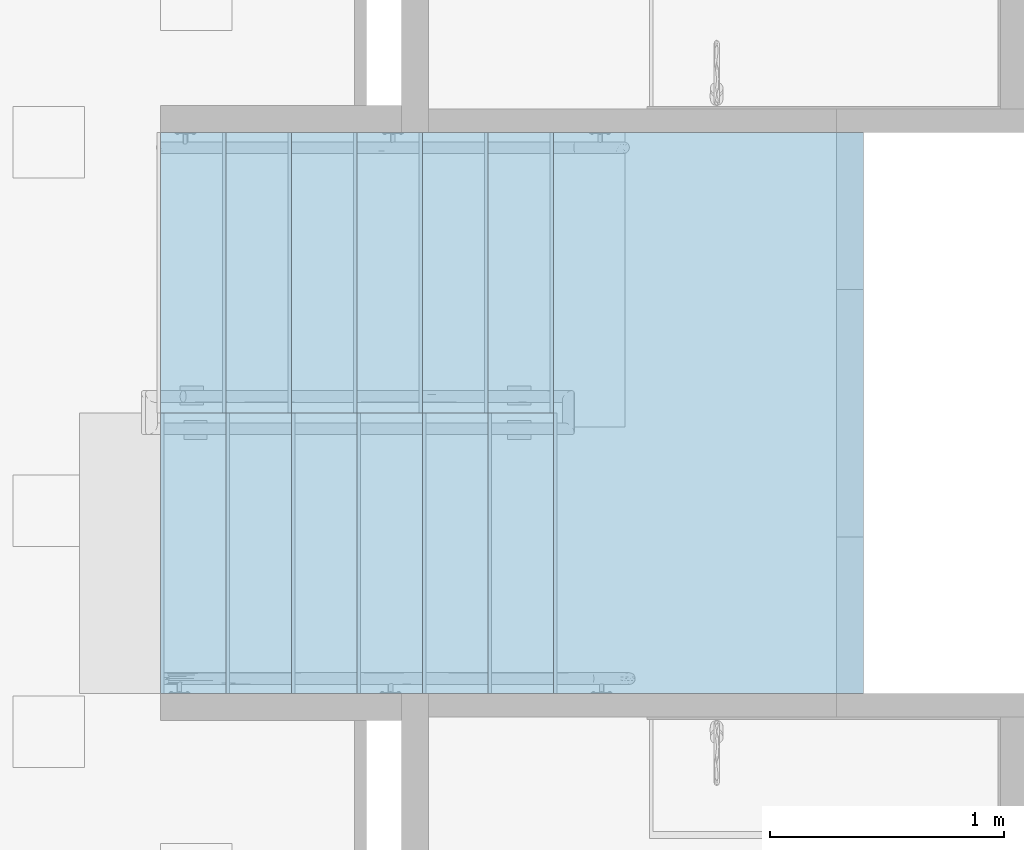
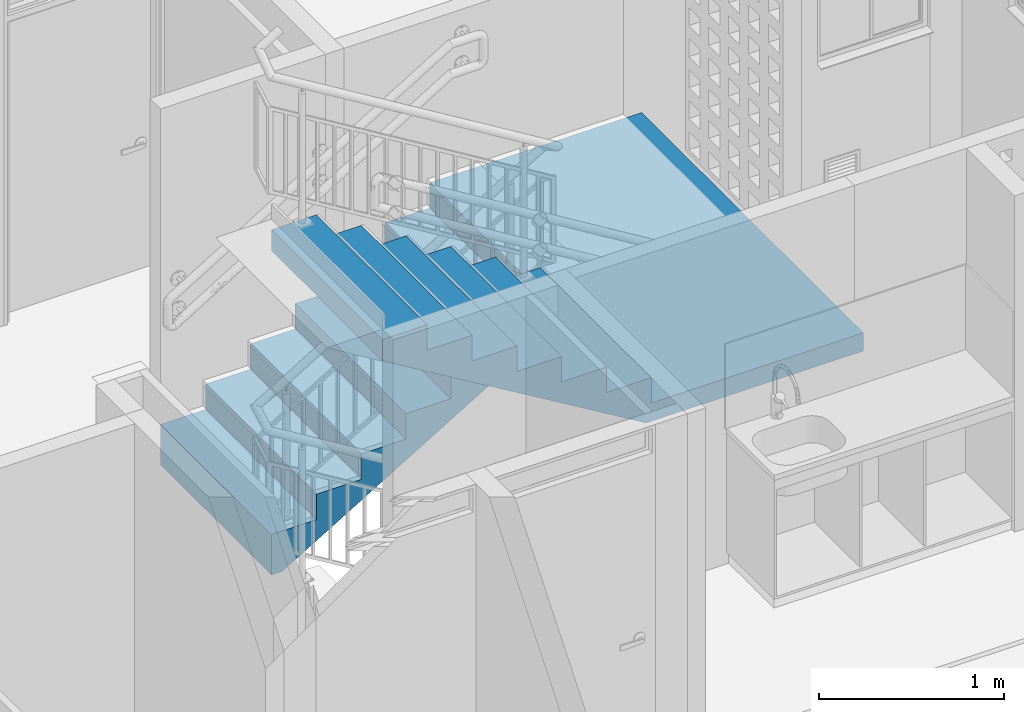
# One storey, part 35 of 51: 1 stair.
"""IFC4 building model written with IfcOpenShell, lengths in metres."""

from ifc_helpers import new_model, entity, si_unit, converted_unit, derived_unit, direction, frame, origin, place, context, subcontext, project, spatial, polygons, material, type_object, element, save


model = new_model("IFC4")

# Units and contexts
model_context = context("Model", 3, precision=1e-05, world=origin(), true_north=direction((6.123031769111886e-17, 1.0)))
body_context = subcontext(model_context, "Body", "Model", "MODEL_VIEW")
ifc_project = project(units=[si_unit("LENGTHUNIT", "METRE"), si_unit("AREAUNIT", "SQUARE_METRE"), si_unit("VOLUMEUNIT", "CUBIC_METRE"), converted_unit("PLANEANGLEUNIT", "DEGREE", entity("IfcRatioMeasure", 0.017453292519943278), si_unit("PLANEANGLEUNIT", "RADIAN"), dimensions=[0, 0, 0, 0, 0, 0, 0]), si_unit("MASSUNIT", "GRAM", prefix="KILO"), derived_unit("MASSDENSITYUNIT", [(si_unit("MASSUNIT", "GRAM", prefix="KILO"), 1), (si_unit("LENGTHUNIT", "METRE"), -3)]), derived_unit("IONCONCENTRATIONUNIT", [(si_unit("MASSUNIT", "GRAM", prefix="KILO"), 1), (si_unit("LENGTHUNIT", "METRE"), -3)]), derived_unit("MOMENTOFINERTIAUNIT", [(si_unit("LENGTHUNIT", "METRE"), 4)]), si_unit("TIMEUNIT", "SECOND"), si_unit("FREQUENCYUNIT", "HERTZ"), si_unit("THERMODYNAMICTEMPERATUREUNIT", "DEGREE_CELSIUS"), derived_unit("THERMALTRANSMITTANCEUNIT", [(si_unit("MASSUNIT", "GRAM", prefix="KILO"), 1), (si_unit("THERMODYNAMICTEMPERATUREUNIT", "KELVIN"), -1), (si_unit("TIMEUNIT", "SECOND"), -3)]), derived_unit("THERMALCONDUCTANCEUNIT", [(si_unit("MASSUNIT", "GRAM", prefix="KILO"), 1), (si_unit("THERMODYNAMICTEMPERATUREUNIT", "KELVIN"), -1), (si_unit("TIMEUNIT", "SECOND"), -3), (si_unit("LENGTHUNIT", "METRE"), 1)]), derived_unit("VOLUMETRICFLOWRATEUNIT", [(si_unit("LENGTHUNIT", "METRE"), 3), (si_unit("TIMEUNIT", "SECOND"), -1)]), derived_unit("MASSFLOWRATEUNIT", [(si_unit("MASSUNIT", "GRAM", prefix="KILO"), 1), (si_unit("TIMEUNIT", "SECOND"), -1)]), derived_unit("ROTATIONALFREQUENCYUNIT", [(si_unit("TIMEUNIT", "SECOND"), -1)]), si_unit("ELECTRICCURRENTUNIT", "AMPERE"), si_unit("ELECTRICVOLTAGEUNIT", "VOLT"), si_unit("POWERUNIT", "WATT"), si_unit("FORCEUNIT", "NEWTON", prefix="KILO"), si_unit("ILLUMINANCEUNIT", "LUX"), si_unit("LUMINOUSFLUXUNIT", "LUMEN"), si_unit("LUMINOUSINTENSITYUNIT", "CANDELA"), derived_unit("USERDEFINED", [(si_unit("MASSUNIT", "GRAM", prefix="KILO"), -1), (si_unit("LENGTHUNIT", "METRE"), -2), (si_unit("TIMEUNIT", "SECOND"), 3), (si_unit("LUMINOUSFLUXUNIT", "LUMEN"), 1)]), derived_unit("USERDEFINED", [(si_unit("MASSUNIT", "GRAM", prefix="KILO"), 1), (si_unit("TIMEUNIT", "SECOND"), -3), (si_unit("LENGTHUNIT", "METRE"), 3), (si_unit("ELECTRICCURRENTUNIT", "AMPERE"), -2)]), derived_unit("SOUNDPOWERUNIT", [(si_unit("MASSUNIT", "GRAM", prefix="KILO"), 1), (si_unit("TIMEUNIT", "SECOND"), -3), (si_unit("LENGTHUNIT", "METRE"), 2)]), derived_unit("SOUNDPRESSUREUNIT", [(si_unit("MASSUNIT", "GRAM", prefix="KILO"), 1), (si_unit("LENGTHUNIT", "METRE"), -1), (si_unit("TIMEUNIT", "SECOND"), -2)]), derived_unit("LINEARVELOCITYUNIT", [(si_unit("LENGTHUNIT", "METRE"), 1), (si_unit("TIMEUNIT", "SECOND"), -1)]), si_unit("PRESSUREUNIT", "PASCAL"), derived_unit("USERDEFINED", [(si_unit("MASSUNIT", "GRAM", prefix="KILO"), 1), (si_unit("LENGTHUNIT", "METRE"), -2), (si_unit("TIMEUNIT", "SECOND"), -2)]), derived_unit("LINEARFORCEUNIT", [(si_unit("MASSUNIT", "GRAM", prefix="KILO"), 1), (si_unit("TIMEUNIT", "SECOND"), -2)]), derived_unit("PLANARFORCEUNIT", [(si_unit("MASSUNIT", "GRAM", prefix="KILO"), 1), (si_unit("LENGTHUNIT", "METRE"), -1), (si_unit("TIMEUNIT", "SECOND"), -2)]), derived_unit("SPECIFICHEATCAPACITYUNIT", [(si_unit("THERMODYNAMICTEMPERATUREUNIT", "KELVIN"), -1), (si_unit("LENGTHUNIT", "METRE"), 2), (si_unit("TIMEUNIT", "SECOND"), -2)]), derived_unit("HEATINGVALUEUNIT", [(si_unit("LENGTHUNIT", "METRE"), 2), (si_unit("TIMEUNIT", "SECOND"), -2)]), derived_unit("VAPORPERMEABILITYUNIT", [(si_unit("LENGTHUNIT", "METRE"), -1), (si_unit("TIMEUNIT", "SECOND"), 1)]), derived_unit("DYNAMICVISCOSITYUNIT", [(si_unit("MASSUNIT", "GRAM", prefix="KILO"), 1), (si_unit("TIMEUNIT", "SECOND"), -1), (si_unit("LENGTHUNIT", "METRE"), -1)]), derived_unit("THERMALEXPANSIONCOEFFICIENTUNIT", [(si_unit("THERMODYNAMICTEMPERATUREUNIT", "KELVIN"), -1)]), derived_unit("MODULUSOFELASTICITYUNIT", [(si_unit("MASSUNIT", "GRAM", prefix="KILO"), 1), (si_unit("LENGTHUNIT", "METRE"), -1), (si_unit("TIMEUNIT", "SECOND"), -2)]), derived_unit("ISOTHERMALMOISTURECAPACITYUNIT", [(si_unit("LENGTHUNIT", "METRE"), 3), (si_unit("MASSUNIT", "GRAM", prefix="KILO"), -1)]), derived_unit("MOISTUREDIFFUSIVITYUNIT", [(si_unit("TIMEUNIT", "SECOND"), -1), (si_unit("LENGTHUNIT", "METRE"), 2)])], contexts=[model_context])

# Site, building, storey
site_placement = place(None, origin())
site = spatial("IfcSite", under=ifc_project, at=site_placement, Name="Default", CompositionType="ELEMENT")
building_placement = place(site_placement, origin())
building = spatial("IfcBuilding", under=site, at=building_placement, CompositionType="ELEMENT")
storey_placement = place(building_placement, frame((0.0, 0.0, 2.350000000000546)))
storey = spatial("IfcBuildingStorey", under=building, at=storey_placement, Name="Nivel 2", CompositionType="ELEMENT", Elevation=2.350000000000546)

# Stair
ifc_material = material(Name="Concreto (Aire)", Category="Materials")
stair_type = type_object("IfcStairType", Name="Stair:B1080 - 2.40 x 2.88 - Escalera en concreto de dos tramos piso tipo", PredefinedType="NOTDEFINED")
stair_placement = place(storey_placement, frame((9.55250000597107, -7.625000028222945, -0.10000000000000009)))
element("IfcStair", 1, at=stair_placement, inside=storey, type_object=stair_type, material=ifc_material, Name="Stair:B1080 - 2.40 x 2.88 - Escalera en concreto de dos tramos piso tipo", ObjectType="Stair:B1080 - 2.40 x 2.88 - Escalera en concreto de dos tramos piso tipo", PredefinedType="NOTDEFINED", context=body_context, shape_type="Tessellation", body=[
    polygons([(0.2800000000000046, 2.4000000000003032, 0.2678571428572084), (4.331468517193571e-15, 2.4000000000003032, 0.2678571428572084), (4.331468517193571e-15, 1.2000000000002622, 0.2678571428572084), (0.28000000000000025, 1.200000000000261, 0.2678571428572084), (0.28000000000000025, 2.4000000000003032, 0.4357142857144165), (0.5600000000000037, 2.4000000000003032, 0.4357142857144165), (0.5600000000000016, 2.4000000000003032, 0.6035714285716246), (0.8400000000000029, 2.4000000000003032, 0.6035714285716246), (0.8400000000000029, 2.4000000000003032, 0.7714285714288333), (1.120000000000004, 2.4000000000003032, 0.7714285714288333), (1.1199999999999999, 2.4000000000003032, 0.9392857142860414), (1.4000000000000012, 2.4000000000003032, 0.9392857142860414), (1.399999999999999, 2.4000000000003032, 1.107142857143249), (1.6800000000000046, 2.4000000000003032, 1.107142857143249), (1.6800000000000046, 2.4000000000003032, 1.2750000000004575), (3.005000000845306, 2.4000000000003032, 1.2750000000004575), (3.005000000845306, 2.4000000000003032, 1.1550000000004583), (1.993213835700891, 2.4000000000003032, 1.1550000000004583), (0.0665755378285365, 2.4000000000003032, 5.414335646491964e-16), (4.331468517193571e-15, 2.4000000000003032, 0.0), (4.331468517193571e-15, 1.2000000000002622, 0.0), (1.993213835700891, 1.2000000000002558, 1.1550000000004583), (0.0665755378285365, 1.2000000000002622, 5.414335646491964e-16), (1.6467861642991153, 1.199000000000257, 1.1550000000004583), (1.6467861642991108, 1.0828671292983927e-15, 1.1550000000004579), (-2.1657342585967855e-15, 1.0828671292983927e-15, 2.1422315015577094), (4.331468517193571e-15, 1.1990000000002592, 2.1422315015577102), (3.005000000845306, 1.0828671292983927e-15, 1.1550000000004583), (1.6800000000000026, 1.199000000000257, 1.1550000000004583), (1.6800000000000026, 1.2000000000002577, 1.1550000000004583), (0.28000000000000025, 1.2000000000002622, 0.4357142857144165), (0.5600000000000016, 1.200000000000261, 0.4357142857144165), (0.5600000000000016, 1.200000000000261, 0.6035714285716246), (0.8400000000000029, 1.200000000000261, 0.6035714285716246), (0.8400000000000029, 1.200000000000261, 0.7714285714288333), (1.1199999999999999, 1.200000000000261, 0.7714285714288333), (1.1199999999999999, 1.200000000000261, 0.9392857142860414), (1.399999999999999, 1.20000000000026, 0.9392857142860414), (1.399999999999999, 1.200000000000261, 1.107142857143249), (1.6800000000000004, 1.2000000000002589, 1.107142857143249), (1.6800000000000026, 1.2000000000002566, 1.2750000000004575), (1.6800000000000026, 1.199000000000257, 1.2750000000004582), (1.6799999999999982, 1.0828671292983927e-15, 1.2750000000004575), (3.005000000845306, 1.0828671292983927e-15, 1.2750000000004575), (1.6799999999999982, 1.0828671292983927e-15, 1.4428571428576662), (1.4000000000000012, 1.0828671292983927e-15, 1.4428571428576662), (1.4000000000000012, 1.0828671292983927e-15, 1.6107142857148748), (1.1199999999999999, 1.0828671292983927e-15, 1.6107142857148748), (1.1199999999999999, 1.0828671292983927e-15, 1.7785714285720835), (0.8399999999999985, 1.0828671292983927e-15, 1.7785714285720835), (0.8399999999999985, 1.0828671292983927e-15, 1.9464285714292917), (0.5600000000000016, 1.0828671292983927e-15, 1.9464285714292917), (0.5600000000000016, 1.0828671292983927e-15, 2.1142857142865), (0.28000000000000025, 1.0828671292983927e-15, 2.1142857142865), (0.28000000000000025, 1.0828671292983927e-15, 2.2821428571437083), (-2.1657342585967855e-15, 1.0828671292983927e-15, 2.2821428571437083), (1.6800000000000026, 1.199000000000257, 1.4428571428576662), (1.4000000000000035, 1.199000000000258, 1.4428571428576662), (1.4000000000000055, 1.199000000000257, 1.6107142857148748), (1.120000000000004, 1.199000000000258, 1.6107142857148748), (1.120000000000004, 1.199000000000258, 1.7785714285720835), (0.8400000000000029, 1.1990000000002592, 1.7785714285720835), (0.8400000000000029, 1.199000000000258, 1.9464285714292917), (0.5600000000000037, 1.1990000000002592, 1.9464285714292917), (0.5600000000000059, 1.199000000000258, 2.1142857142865), (0.2800000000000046, 1.1990000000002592, 2.1142857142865), (0.2800000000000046, 1.199000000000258, 2.2821428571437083), (4.331468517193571e-15, 1.199000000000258, 2.2821428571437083)], [[[1, 2, 3, 4]], [[2, 1, 5, 6, 7, 8, 9, 10, 11, 12, 13, 14, 15, 16, 17, 18, 19, 20]], [[3, 2, 20, 21]], [[18, 22, 23, 19]], [[24, 25, 26, 27]], [[22, 18, 17, 28, 25, 24, 29, 30]], [[6, 5, 31, 32]], [[8, 7, 33, 34]], [[10, 9, 35, 36]], [[12, 11, 37, 38]], [[14, 13, 39, 40]], [[16, 15, 41, 42, 43, 44]], [[42, 41, 30, 29]], [[44, 43, 45, 46, 47, 48, 49, 50, 51, 52, 53, 54, 55, 56, 26, 25, 28]], [[16, 44, 28, 17]], [[15, 14, 40, 30, 41]], [[46, 45, 57, 58]], [[48, 47, 59, 60]], [[50, 49, 61, 62]], [[52, 51, 63, 64]], [[54, 53, 65, 66]], [[56, 55, 67, 68]], [[21, 20, 19, 23]], [[4, 3, 21, 23, 22, 30, 40, 39, 38, 37, 36, 35, 34, 33, 32, 31]], [[1, 4, 31, 5]], [[7, 6, 32, 33]], [[9, 8, 34, 35]], [[11, 10, 36, 37]], [[13, 12, 38, 39]], [[43, 42, 57, 45]], [[58, 57, 42, 29, 24, 27, 68, 67, 66, 65, 64, 63, 62, 61, 60, 59]], [[47, 46, 58, 59]], [[49, 48, 60, 61]], [[51, 50, 62, 63]], [[53, 52, 64, 65]], [[55, 54, 66, 67]], [[56, 68, 27, 26]]], closed=True),
])

save(model, "model.ifc")
